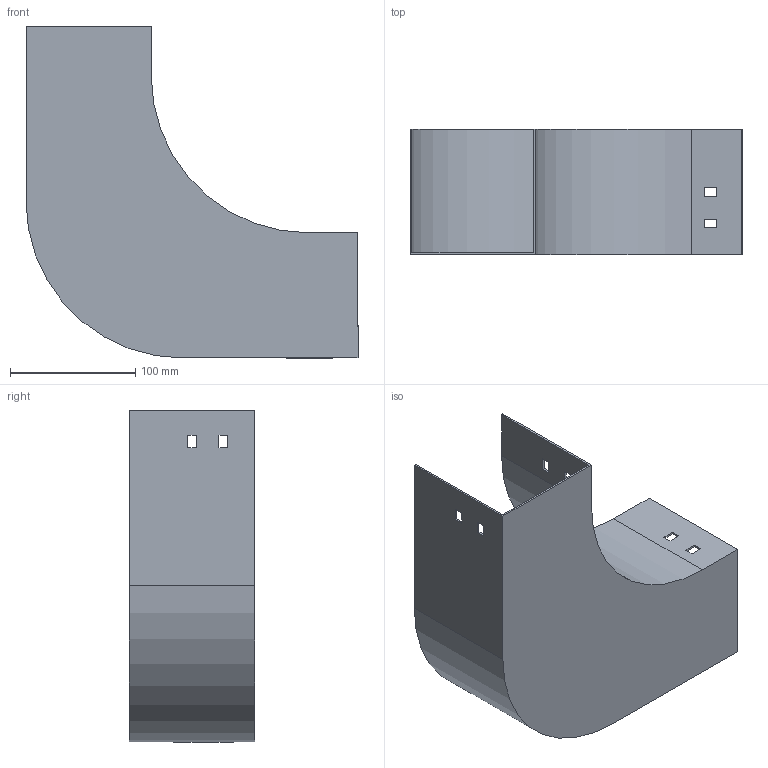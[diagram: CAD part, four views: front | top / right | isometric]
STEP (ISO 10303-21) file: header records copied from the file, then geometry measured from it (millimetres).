
FILE_DESCRIPTION (( 'STEP AP214' ), '1' );
FILE_NAME ('P9_101.step', '2025-07-16T09:20:12', ( '' ), ( '' ), 'SwSTEP 2.0', 'SolidWorks 2023', '' );
FILE_SCHEMA (( 'AUTOMOTIVE_DESIGN' ));
Length unit declared in the file: millimetre
Products named in the file (1): P9_101
Bounding box: 265 x 100 x 265 mm (x, y, z)
Volume: 174871.3 mm3; surface area: 235589.8 mm2
Topology: 1 solids, 1 shells, 50 faces, 144 edges, 96 vertices
Faces by surface type: plane 46, cylinder 4
Entity records: 1671 total; most frequent: CARTESIAN_POINT 291, ORIENTED_EDGE 288, DIRECTION 254, EDGE_CURVE 144, LINE 136, VECTOR 136, VERTEX_POINT 96, EDGE_LOOP 66
